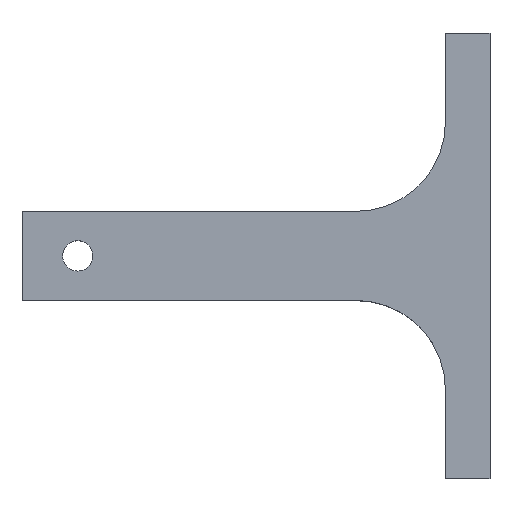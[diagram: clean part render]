
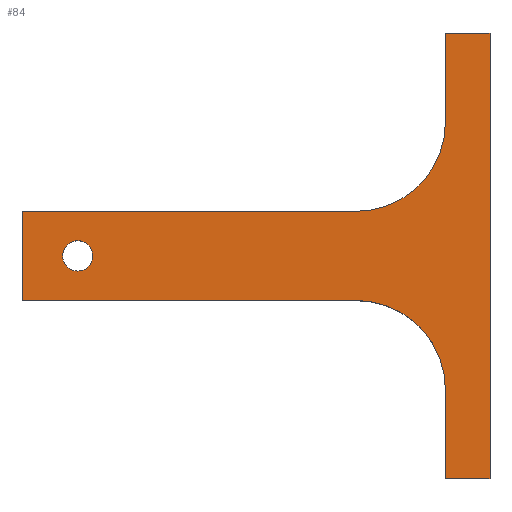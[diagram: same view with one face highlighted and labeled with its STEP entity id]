
A CAD part, top view. The second image highlights one B-rep face of the part: STEP entity #84.
In plain terms, the highlighted planar face has unit normal (0, 0, 1).
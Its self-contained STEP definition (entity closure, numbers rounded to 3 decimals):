
#52=FACE_BOUND('',#128,.T.);
#53=FACE_BOUND('',#129,.T.);
#72=CIRCLE('',#407,3.4);
#73=CIRCLE('',#408,20.);
#74=CIRCLE('',#409,20.);
#84=ADVANCED_FACE('',(#52,#53),#103,.F.);
#103=PLANE('',#410);
#128=EDGE_LOOP('',(#178));
#129=EDGE_LOOP('',(#179,#180,#181,#182,#183,#184,#185,#186,#187,#188));
#178=ORIENTED_EDGE('',*,*,#305,.F.);
#179=ORIENTED_EDGE('',*,*,#306,.T.);
#180=ORIENTED_EDGE('',*,*,#307,.T.);
#181=ORIENTED_EDGE('',*,*,#308,.T.);
#182=ORIENTED_EDGE('',*,*,#309,.F.);
#183=ORIENTED_EDGE('',*,*,#303,.F.);
#184=ORIENTED_EDGE('',*,*,#310,.T.);
#185=ORIENTED_EDGE('',*,*,#311,.T.);
#186=ORIENTED_EDGE('',*,*,#312,.T.);
#187=ORIENTED_EDGE('',*,*,#284,.F.);
#188=ORIENTED_EDGE('',*,*,#281,.T.);
#247=VERTEX_POINT('',#535);
#248=VERTEX_POINT('',#537);
#250=VERTEX_POINT('',#543);
#266=VERTEX_POINT('',#579);
#267=VERTEX_POINT('',#581);
#268=VERTEX_POINT('',#585);
#269=VERTEX_POINT('',#587);
#270=VERTEX_POINT('',#589);
#271=VERTEX_POINT('',#591);
#272=VERTEX_POINT('',#594);
#273=VERTEX_POINT('',#596);
#281=EDGE_CURVE('',#248,#247,#329,.T.);
#284=EDGE_CURVE('',#248,#250,#332,.T.);
#303=EDGE_CURVE('',#266,#267,#345,.T.);
#305=EDGE_CURVE('',#268,#268,#72,.T.);
#306=EDGE_CURVE('',#247,#269,#347,.T.);
#307=EDGE_CURVE('',#269,#270,#73,.T.);
#308=EDGE_CURVE('',#270,#271,#348,.T.);
#309=EDGE_CURVE('',#267,#271,#349,.T.);
#310=EDGE_CURVE('',#266,#272,#350,.T.);
#311=EDGE_CURVE('',#272,#273,#351,.T.);
#312=EDGE_CURVE('',#273,#250,#74,.T.);
#329=LINE('',#536,#363);
#332=LINE('',#542,#366);
#345=LINE('',#580,#379);
#347=LINE('',#586,#381);
#348=LINE('',#590,#382);
#349=LINE('',#592,#383);
#350=LINE('',#593,#384);
#351=LINE('',#595,#385);
#363=VECTOR('',#433,1.);
#366=VECTOR('',#438,1.);
#379=VECTOR('',#467,1.);
#381=VECTOR('',#473,1.);
#382=VECTOR('',#476,1.);
#383=VECTOR('',#477,1.);
#384=VECTOR('',#478,1.);
#385=VECTOR('',#479,1.);
#407=AXIS2_PLACEMENT_3D('',#584,#471,#472);
#408=AXIS2_PLACEMENT_3D('',#588,#474,#475);
#409=AXIS2_PLACEMENT_3D('',#597,#480,#481);
#410=AXIS2_PLACEMENT_3D('',#598,#482,#483);
#433=DIRECTION('',(0.,-1.,0.));
#438=DIRECTION('',(1.,0.,0.));
#467=DIRECTION('',(0.,-1.,0.));
#471=DIRECTION('',(0.,0.,1.));
#472=DIRECTION('',(-1.,0.,0.));
#473=DIRECTION('',(1.,0.,0.));
#474=DIRECTION('',(0.,0.,-1.));
#475=DIRECTION('',(-1.,0.,0.));
#476=DIRECTION('',(0.,-1.,0.));
#477=DIRECTION('',(-1.,0.,0.));
#478=DIRECTION('',(-1.,0.,0.));
#479=DIRECTION('',(0.,-1.,0.));
#480=DIRECTION('',(0.,0.,-1.));
#481=DIRECTION('',(-1.,0.,0.));
#482=DIRECTION('',(0.,0.,-1.));
#483=DIRECTION('',(1.,0.,0.));
#535=CARTESIAN_POINT('',(-105.,-10.,30.));
#536=CARTESIAN_POINT('',(-105.,0.,30.));
#537=CARTESIAN_POINT('',(-105.,10.,30.));
#542=CARTESIAN_POINT('',(-105.,10.,30.));
#543=CARTESIAN_POINT('',(-30.,10.,30.));
#579=CARTESIAN_POINT('',(0.,50.,30.));
#580=CARTESIAN_POINT('',(0.,0.,30.));
#581=CARTESIAN_POINT('',(0.,-50.,30.));
#584=CARTESIAN_POINT('',(-92.5,0.,30.));
#585=CARTESIAN_POINT('',(-95.9,0.,30.));
#586=CARTESIAN_POINT('',(-105.,-10.,30.));
#587=CARTESIAN_POINT('',(-30.,-10.,30.));
#588=CARTESIAN_POINT('',(-30.,-30.,30.));
#589=CARTESIAN_POINT('',(-10.,-30.,30.));
#590=CARTESIAN_POINT('',(-10.,0.,30.));
#591=CARTESIAN_POINT('',(-10.,-50.,30.));
#592=CARTESIAN_POINT('',(0.,-50.,30.));
#593=CARTESIAN_POINT('',(0.,50.,30.));
#594=CARTESIAN_POINT('',(-10.,50.,30.));
#595=CARTESIAN_POINT('',(-10.,0.,30.));
#596=CARTESIAN_POINT('',(-10.,30.,30.));
#597=CARTESIAN_POINT('',(-30.,30.,30.));
#598=CARTESIAN_POINT('',(-105.,0.,30.));
